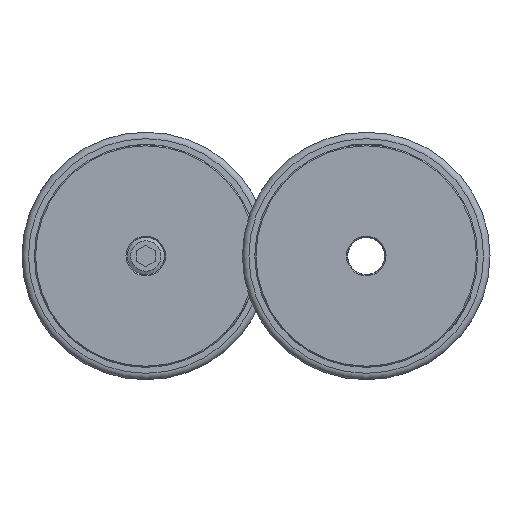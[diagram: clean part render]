
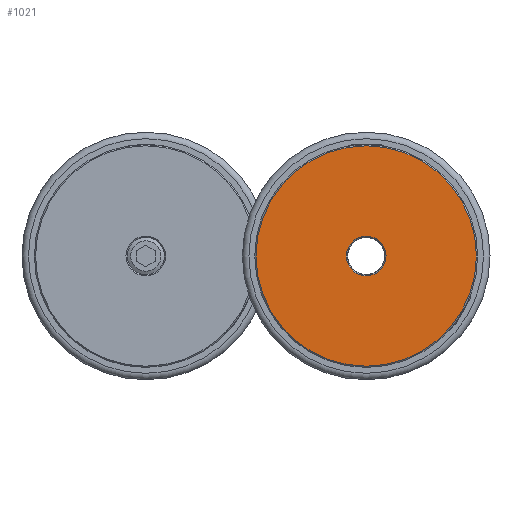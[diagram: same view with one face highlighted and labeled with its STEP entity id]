
A CAD part, left-side view. The second image highlights one B-rep face of the part: STEP entity #1021.
In plain terms, the highlighted planar face has unit normal (-1, 0, 0).
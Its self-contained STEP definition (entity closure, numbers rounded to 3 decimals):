
#1021 = ADVANCED_FACE( 'NONE', ( #1546, #1547 ), #1548, .F. );
#1546 = FACE_OUTER_BOUND( '', #1775, .T. );
#1547 = FACE_BOUND( '', #1776, .T. );
#1548 = PLANE( '', #1777 );
#1775 = EDGE_LOOP( '', ( #2111 ) );
#1776 = EDGE_LOOP( '', ( #2112 ) );
#1777 = AXIS2_PLACEMENT_3D( '', #2113, #2114, #2115 );
#2111 = ORIENTED_EDGE( '', *, *, #2474, .T. );
#2112 = ORIENTED_EDGE( '', *, *, #2470, .T. );
#2113 = CARTESIAN_POINT( '', ( 0., 18., 0. ) );
#2114 = DIRECTION( '', ( 1., 0., 0. ) );
#2115 = DIRECTION( '', ( 0., 1., 0. ) );
#2470 = EDGE_CURVE( 'NONE', #2765, #2765, #2766, .T. );
#2474 = EDGE_CURVE( 'NONE', #2773, #2773, #2774, .F. );
#2765 = VERTEX_POINT( '', #2971 );
#2766 = CIRCLE( '', #2972, 3.2 );
#2773 = VERTEX_POINT( '', #2979 );
#2774 = CIRCLE( '', #2980, 17.8 );
#2971 = CARTESIAN_POINT( '', ( 0., 0., -3.2 ) );
#2972 = AXIS2_PLACEMENT_3D( '', #3072, #3073, #3074 );
#2979 = CARTESIAN_POINT( '', ( 0., 0., -17.8 ) );
#2980 = AXIS2_PLACEMENT_3D( '', #3084, #3085, #3086 );
#3072 = CARTESIAN_POINT( '', ( 0., 0., 0. ) );
#3073 = DIRECTION( '', ( 1., 0., 0. ) );
#3074 = DIRECTION( '', ( 0., 0., -1. ) );
#3084 = CARTESIAN_POINT( '', ( 0., 0., 0. ) );
#3085 = DIRECTION( '', ( 1., 0., 0. ) );
#3086 = DIRECTION( '', ( 0., 0., -1. ) );
